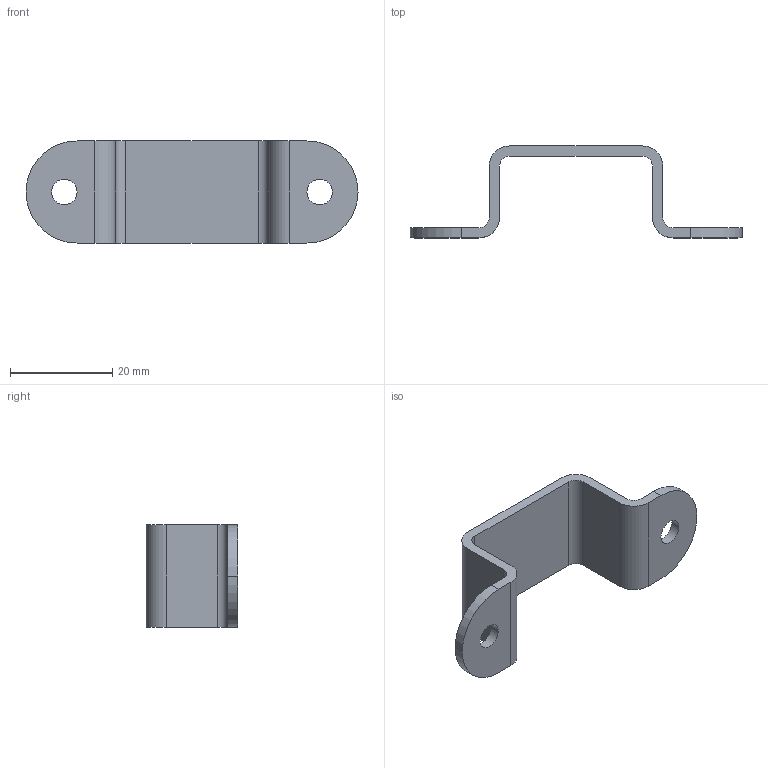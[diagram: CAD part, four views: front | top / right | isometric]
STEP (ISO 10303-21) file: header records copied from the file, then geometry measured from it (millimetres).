
FILE_DESCRIPTION(('CATIA V5 STEP Exchange','CAx-IF Rec.Pracs.--- Model Styling and Organization---1.5--- 2016-08-15','CAx-IF Rec.Pracs.---Supplemental Geometry---1.0---2011-11-01','CAx-IF Rec.Pracs.--- Composite Materials ---1.1---2010-07-15'),'2;1');
FILE_NAME('W:\8-25-003 RENOVATION DEBITMETRE PHI100 A S3\CATIA\Etude\S3MA-8-25003-1018--_DEMI-COLLIER.stp','2026-02-06T10:09:18+00:00',('none'),('none'),'CATIA Version 5-6 Release 2020 SP6 HF13','CATIA V5 STEP AP214 v2','none');
FILE_SCHEMA(('AUTOMOTIVE_DESIGN { 1 0 10303 214 1 1 1 1 }'));
Length unit declared in the file: millimetre
Products named in the file (1): S3MA-8-25003-1018--_DEMI-COLLIER
Bounding box: 65 x 18 x 20 mm (x, y, z)
Volume: 3423.8 mm3; surface area: 3899.7 mm2
Topology: 1 solids, 1 shells, 28 faces, 78 edges, 52 vertices
Faces by surface type: cylinder 16, plane 12
Entity records: 891 total; most frequent: ORIENTED_EDGE 156, CARTESIAN_POINT 155, DIRECTION 126, EDGE_CURVE 78, AXIS2_PLACEMENT_3D 57, VERTEX_POINT 52, VECTOR 46, LINE 46
